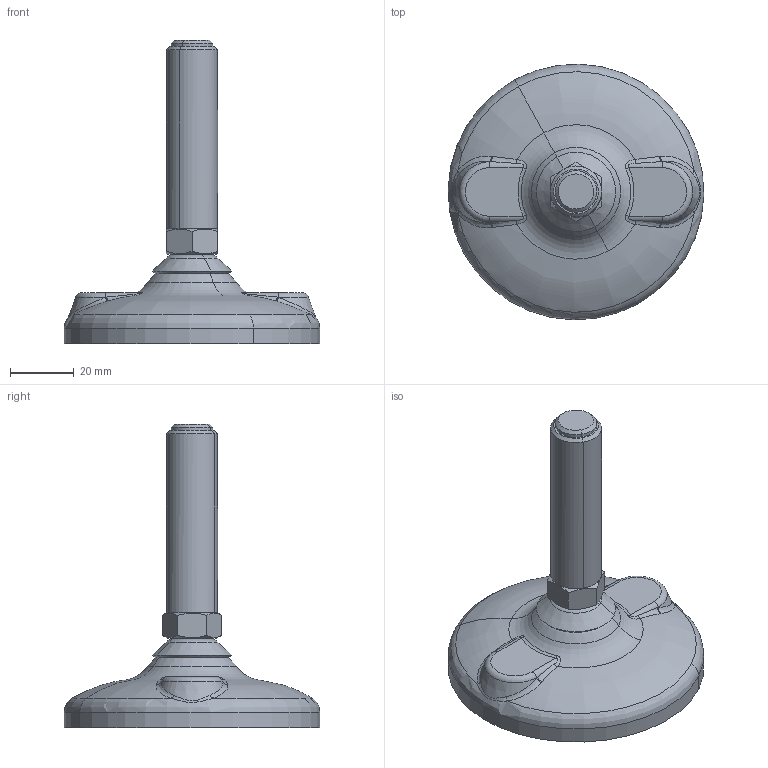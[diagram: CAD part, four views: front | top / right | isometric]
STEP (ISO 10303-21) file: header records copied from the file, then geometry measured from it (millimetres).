
FILE_DESCRIPTION(('CATIA V5 STEP Exchange'),'2;1');
FILE_NAME('S:\3D e 2D per Clienti\3D definitivi\Part 900\P91101H_01.stp','2017-03-29T15:37:50+00:00',('none'),('none'),'Version 5-6 Release 2012','CATIA V5 STEP AP203','none');
FILE_SCHEMA(('CONFIG_CONTROL_DESIGN'));
Length unit declared in the file: millimetre
Products named in the file (1): P91101H_01
Assembly tree (3 placements, depth 2):
  P91101H_01
    #58
    #30650
    #31615
Bounding box: 79.98 x 79.98 x 95.11 mm (x, y, z)
Volume: 82557.6 mm3; surface area: 26866.7 mm2
Topology: 8 solids, 17 shells, 785 faces, 2061 edges, 1315 vertices
Faces by surface type: plane 487, bspline 118, torus 64, cone 38, cylinder 34, revolution 22, sphere 22
Entity records: 31939 total; most frequent: CARTESIAN_POINT 16215, ORIENTED_EDGE 4110, EDGE_CURVE 2055, DIRECTION 1778, B_SPLINE_CURVE_WITH_KNOTS 1367, VERTEX_POINT 1315, EDGE_LOOP 798, ADVANCED_FACE 785
